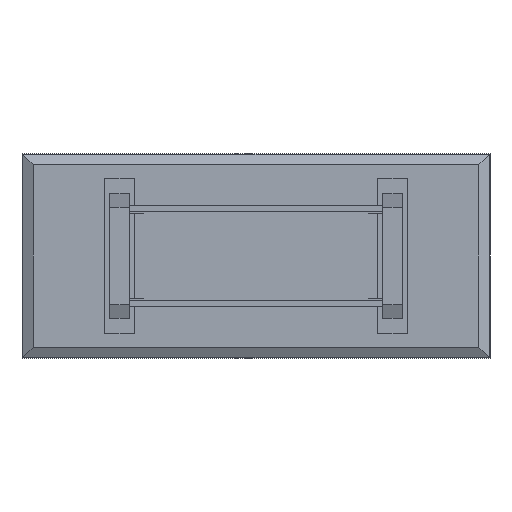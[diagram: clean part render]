
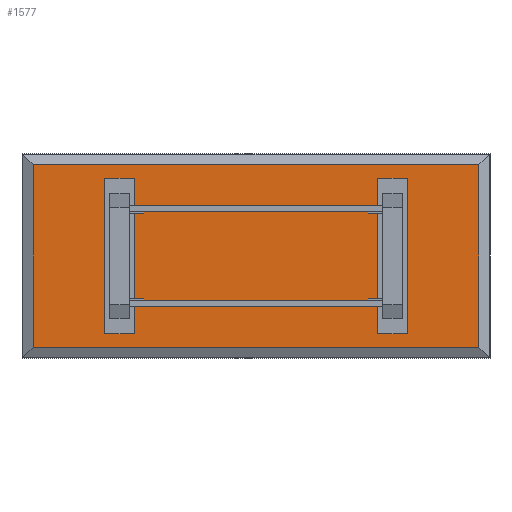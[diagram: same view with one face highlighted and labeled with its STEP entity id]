
A CAD part, front view. The second image highlights one B-rep face of the part: STEP entity #1577.
In plain terms, the highlighted planar face has unit normal (0, -1, 0).
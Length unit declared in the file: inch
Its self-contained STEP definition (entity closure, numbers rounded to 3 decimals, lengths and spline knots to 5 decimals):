
#340=FACE_BOUND('',#426,.T.);
#341=FACE_BOUND('',#427,.T.);
#353=FACE_OUTER_BOUND('',#425,.T.);
#425=EDGE_LOOP('',(#1182,#1183,#1184,#1185));
#426=EDGE_LOOP('',(#1186,#1187,#1188,#1189));
#427=EDGE_LOOP('',(#1190,#1191,#1192,#1193));
#488=LINE('',#2257,#666);
#492=LINE('',#2265,#670);
#495=LINE('',#2271,#673);
#498=LINE('',#2276,#676);
#500=LINE('',#2282,#678);
#504=LINE('',#2290,#682);
#507=LINE('',#2296,#685);
#510=LINE('',#2301,#688);
#515=LINE('',#2312,#693);
#516=LINE('',#2315,#694);
#517=LINE('',#2317,#695);
#518=LINE('',#2318,#696);
#666=VECTOR('',#1880,0.3937);
#670=VECTOR('',#1886,0.3937);
#673=VECTOR('',#1891,0.3937);
#676=VECTOR('',#1896,0.3937);
#678=VECTOR('',#1902,0.3937);
#682=VECTOR('',#1908,0.3937);
#685=VECTOR('',#1913,0.3937);
#688=VECTOR('',#1918,0.3937);
#693=VECTOR('',#1927,0.3937);
#694=VECTOR('',#1930,0.3937);
#695=VECTOR('',#1931,0.3937);
#696=VECTOR('',#1932,0.3937);
#844=VERTEX_POINT('',#2255);
#845=VERTEX_POINT('',#2256);
#848=VERTEX_POINT('',#2264);
#850=VERTEX_POINT('',#2270);
#852=VERTEX_POINT('',#2280);
#853=VERTEX_POINT('',#2281);
#856=VERTEX_POINT('',#2289);
#858=VERTEX_POINT('',#2295);
#860=VERTEX_POINT('',#2305);
#863=VERTEX_POINT('',#2310);
#864=VERTEX_POINT('',#2314);
#865=VERTEX_POINT('',#2316);
#960=EDGE_CURVE('',#844,#845,#488,.T.);
#964=EDGE_CURVE('',#848,#844,#492,.T.);
#967=EDGE_CURVE('',#850,#848,#495,.T.);
#970=EDGE_CURVE('',#845,#850,#498,.T.);
#972=EDGE_CURVE('',#852,#853,#500,.T.);
#976=EDGE_CURVE('',#856,#852,#504,.T.);
#979=EDGE_CURVE('',#858,#856,#507,.T.);
#982=EDGE_CURVE('',#853,#858,#510,.T.);
#987=EDGE_CURVE('',#863,#860,#515,.T.);
#988=EDGE_CURVE('',#864,#863,#516,.T.);
#989=EDGE_CURVE('',#865,#864,#517,.T.);
#990=EDGE_CURVE('',#860,#865,#518,.T.);
#1182=ORIENTED_EDGE('',*,*,#987,.F.);
#1183=ORIENTED_EDGE('',*,*,#988,.F.);
#1184=ORIENTED_EDGE('',*,*,#989,.F.);
#1185=ORIENTED_EDGE('',*,*,#990,.F.);
#1186=ORIENTED_EDGE('',*,*,#960,.T.);
#1187=ORIENTED_EDGE('',*,*,#970,.T.);
#1188=ORIENTED_EDGE('',*,*,#967,.T.);
#1189=ORIENTED_EDGE('',*,*,#964,.T.);
#1190=ORIENTED_EDGE('',*,*,#972,.T.);
#1191=ORIENTED_EDGE('',*,*,#982,.T.);
#1192=ORIENTED_EDGE('',*,*,#979,.T.);
#1193=ORIENTED_EDGE('',*,*,#976,.T.);
#1505=PLANE('',#1787);
#1577=ADVANCED_FACE('',(#353,#340,#341),#1505,.F.);
#1787=AXIS2_PLACEMENT_3D('',#2313,#1928,#1929);
#1880=DIRECTION('',(0.,0.,-1.));
#1886=DIRECTION('',(1.,0.,0.));
#1891=DIRECTION('',(0.,0.,1.));
#1896=DIRECTION('',(-1.,0.,0.));
#1902=DIRECTION('',(0.,0.,-1.));
#1908=DIRECTION('',(1.,0.,0.));
#1913=DIRECTION('',(0.,0.,1.));
#1918=DIRECTION('',(-1.,0.,0.));
#1927=DIRECTION('',(-1.,0.,0.));
#1928=DIRECTION('center_axis',(0.,1.,0.));
#1929=DIRECTION('ref_axis',(0.,0.,1.));
#1930=DIRECTION('',(0.,0.,-1.));
#1931=DIRECTION('',(1.,0.,0.));
#1932=DIRECTION('',(0.,0.,1.));
#2255=CARTESIAN_POINT('',(-16.875,0.,-4.875));
#2256=CARTESIAN_POINT('',(-16.875,0.,-36.875));
#2257=CARTESIAN_POINT('',(-16.875,0.,-12.875));
#2264=CARTESIAN_POINT('',(-22.875,0.,-4.875));
#2265=CARTESIAN_POINT('',(-35.375,0.,-4.875));
#2270=CARTESIAN_POINT('',(-22.875,0.,-36.875));
#2271=CARTESIAN_POINT('',(-22.875,0.,-28.875));
#2276=CARTESIAN_POINT('',(-32.375,0.,-36.875));
#2280=CARTESIAN_POINT('',(-72.875,0.,-4.875));
#2281=CARTESIAN_POINT('',(-72.875,0.,-36.875));
#2282=CARTESIAN_POINT('',(-72.875,0.,-12.875));
#2289=CARTESIAN_POINT('',(-78.875,0.,-4.875));
#2290=CARTESIAN_POINT('',(-63.375,0.,-4.875));
#2295=CARTESIAN_POINT('',(-78.875,0.,-36.875));
#2296=CARTESIAN_POINT('',(-78.875,0.,-28.875));
#2301=CARTESIAN_POINT('',(-60.375,0.,-36.875));
#2305=CARTESIAN_POINT('',(-93.58494,0.,-39.58494));
#2310=CARTESIAN_POINT('',(-2.16506,0.,-39.58494));
#2312=CARTESIAN_POINT('',(-23.9375,0.,-39.58494));
#2313=CARTESIAN_POINT('Origin',(-47.875,0.,-20.875));
#2314=CARTESIAN_POINT('',(-2.16506,0.,-2.16506));
#2315=CARTESIAN_POINT('',(-2.16506,0.,-10.4375));
#2316=CARTESIAN_POINT('',(-93.58494,0.,-2.16506));
#2317=CARTESIAN_POINT('',(-71.8125,0.,-2.16506));
#2318=CARTESIAN_POINT('',(-93.58494,0.,-31.3125));
